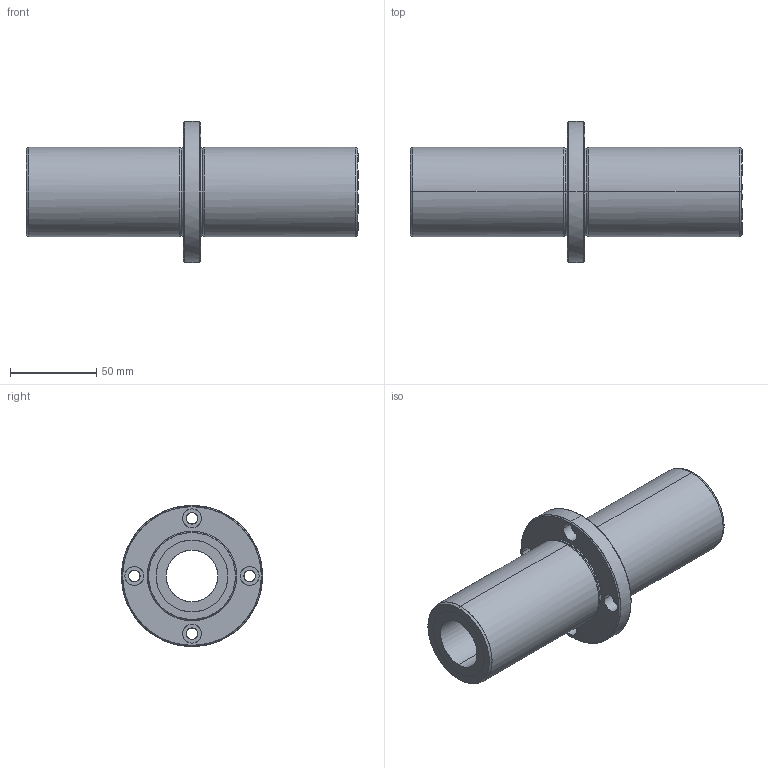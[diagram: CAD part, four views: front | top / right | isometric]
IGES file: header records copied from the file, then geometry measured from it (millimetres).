
Global section: file name: No Iges File Name specified; native system: AutoDesk Inventor R10; preprocessor: AutoDesk Inventor Iges Exporter R10; author: No Author specified; organization: No Organization specified; date: 20101216.172245; units: millimetre
Bounding box: 193 x 82 x 82 mm (x, y, z)
Surface area: 60465.9 mm2 (no closed solid volume)
Topology: 0 solids, 0 shells, 54 faces, 376 edges, 376 vertices
Faces by surface type: bspline 54
